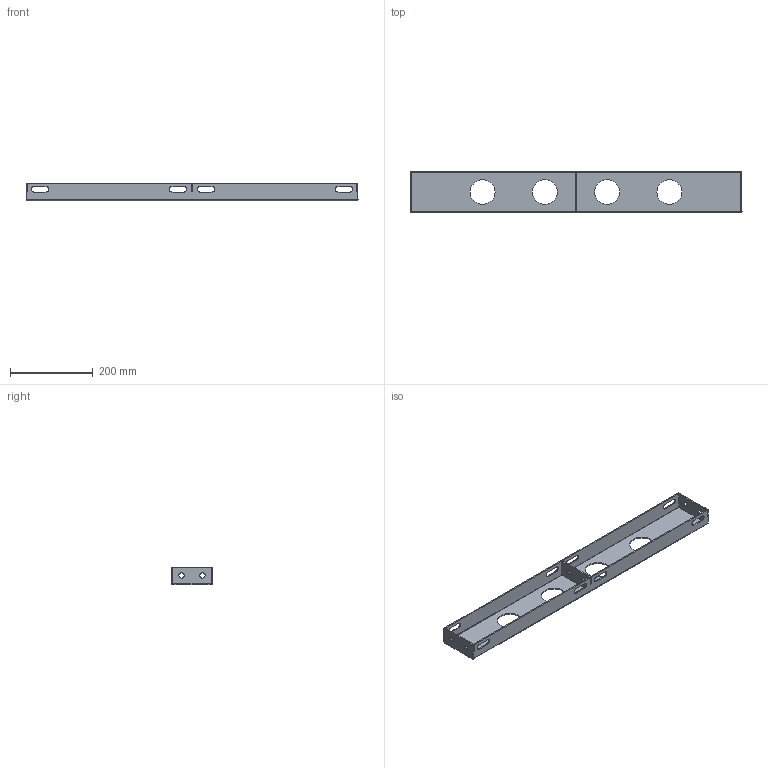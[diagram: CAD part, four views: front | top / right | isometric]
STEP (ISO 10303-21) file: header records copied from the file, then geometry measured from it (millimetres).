
FILE_DESCRIPTION(('CAx-IF Rec.Pracs.---Model Styling and Organization---1.2---2011-12-15','CAx-IF Rec.Pracs.---Geometric and Assembly Validation Properties---4.1---2014-06-16','CAx-IF Rec.Pracs.---PMI Polyline Presentation---2.0---2013-05-24'),'2;1');
FILE_NAME('R5TSW08.stp','2021-05-06T02:21:59+03:00',(''),(''),'STEP Interface 4.4 by CT CoreTechnologie','3D_Evolution4.4 by CT CoreTechnologie','');
FILE_SCHEMA(('AUTOMOTIVE_DESIGN { 1 0 10303 214 1 1 1 1 }'));
Length unit declared in the file: millimetre
Products named in the file (3): R5TSW08; RB.1194.00.02.0_-00; RB.1194.00.01.0_-03
Assembly tree (4 placements, depth 2):
  R5TSW08
    RB.1194.00.02.0_-00  x3
    RB.1194.00.01.0_-03
Bounding box: 800 x 100 x 43 mm (x, y, z)
Surface area: 289094.9 mm2 (no closed solid volume)
Topology: 0 solids, 4 shells, 146 faces, 406 edges, 268 vertices
Faces by surface type: plane 100, cylinder 46
Entity records: 3624 total; most frequent: CARTESIAN_POINT 605, ORIENTED_EDGE 596, DIRECTION 588, EDGE_CURVE 298, VECTOR 230, LINE 230, VERTEX_POINT 196, AXIS2_PLACEMENT_3D 179
